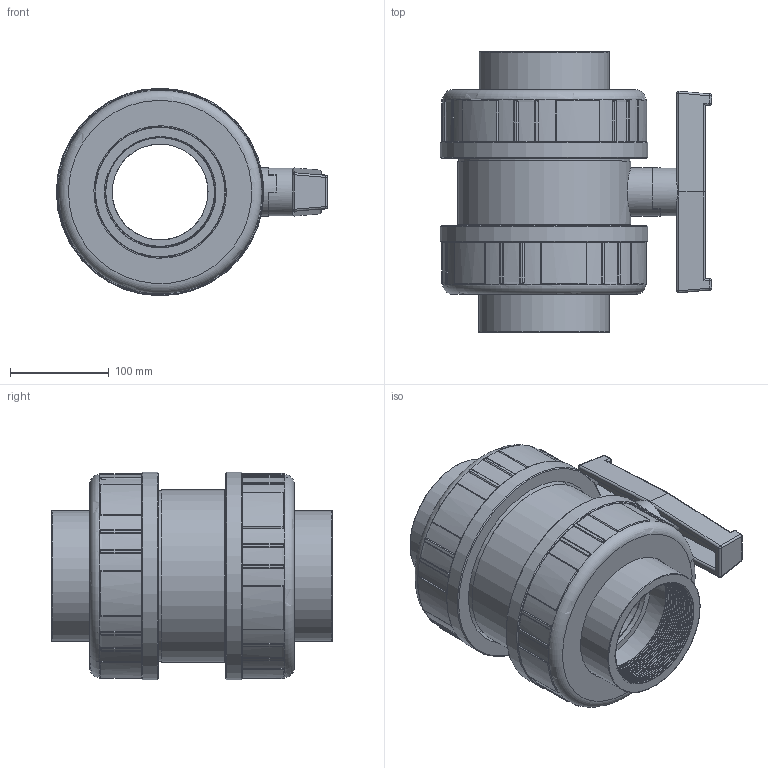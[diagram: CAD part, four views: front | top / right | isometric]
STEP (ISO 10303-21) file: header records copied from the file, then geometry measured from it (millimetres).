
FILE_DESCRIPTION(/* description */ (''),/* implementation_level */ '2;1');
FILE_NAME(/* name */ 'C:\Users\POLYPIPE\Desktop\DATASET INVENTOR\LIBRERIA EFFAST\3D_VALVOLE\3D_VALVOLE A SFERA\3D_BV\3D_BERBVE\3D_BERBVE110L.stp',/* time_stamp */ '2018-01-24T10:13:00+01:00',/* author */ ('POLYPIPE'),/* organization */ (''),/* preprocessor_version */ 'ST-DEVELOPER v16.1',/* originating_system */ 'Autodesk Inventor 2016',/* authorisation */ '');
FILE_SCHEMA (('CONFIG_CONTROL_DESIGN'));
Products named in the file (1): 3D_BERBVE110L
Bounding box: 274.5 x 284 x 210 mm (x, y, z)
Volume: 4901187.2 mm3; surface area: 596171 mm2
Topology: 3 solids, 4 shells, 520 faces, 1320 edges, 823 vertices
Faces by surface type: cylinder 194, bspline 158, plane 134, torus 18, sphere 12, cone 4
Full cylindrical faces by diameter (mm): 32 x1, 48.3 x1, 48.8 x1, 97 x3, 110.072 x2, 132 x2, 134.1 x2, 164 x2, 173 x2, 175 x1, 179.8 x2, 210 x2
Entity records: 71952 total; most frequent: CARTESIAN_POINT 59795, ORIENTED_EDGE 2566, DIRECTION 2142, EDGE_CURVE 1283, AXIS2_PLACEMENT_3D 824, VERTEX_POINT 815, EDGE_LOOP 570, STYLED_ITEM 523
